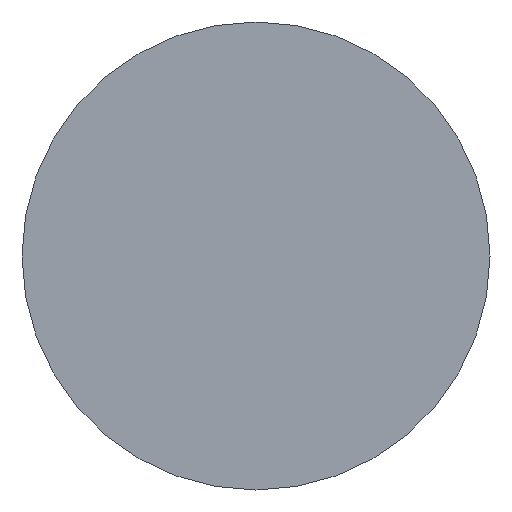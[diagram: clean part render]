
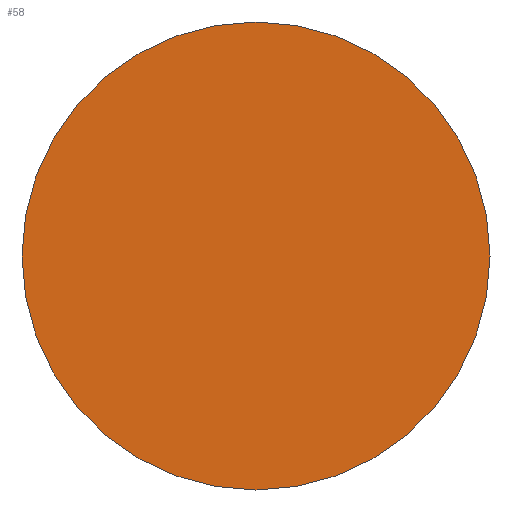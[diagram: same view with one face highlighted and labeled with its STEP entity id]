
A CAD part, left-side view. The second image highlights one B-rep face of the part: STEP entity #58.
In plain terms, the highlighted planar face has unit normal (-1, 0, 0).
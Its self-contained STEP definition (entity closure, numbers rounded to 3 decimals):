
#58 = ADVANCED_FACE('',(#59),#72,.T.);
#59 = FACE_BOUND('',#60,.F.);
#60 = EDGE_LOOP('',(#61));
#61 = ORIENTED_EDGE('',*,*,#62,.F.);
#62 = EDGE_CURVE('',#63,#63,#65,.T.);
#63 = VERTEX_POINT('',#64);
#64 = CARTESIAN_POINT('',(0.,-35.,0.));
#65 = SURFACE_CURVE('',#66,(#71,#83),.PCURVE_S1.);
#66 = CIRCLE('',#67,35.);
#67 = AXIS2_PLACEMENT_3D('',#68,#69,#70);
#68 = CARTESIAN_POINT('',(0.,0.,0.));
#69 = DIRECTION('',(-1.,-0.,0.));
#70 = DIRECTION('',(0.,-1.,0.));
#71 = PCURVE('',#72,#77);
#72 = PLANE('',#73);
#73 = AXIS2_PLACEMENT_3D('',#74,#75,#76);
#74 = CARTESIAN_POINT('',(0.,0.,0.));
#75 = DIRECTION('',(-1.,-0.,-0.));
#76 = DIRECTION('',(-0.,-1.,0.));
#77 = DEFINITIONAL_REPRESENTATION('',(#78),#82);
#78 = CIRCLE('',#79,35.);
#79 = AXIS2_PLACEMENT_2D('',#80,#81);
#80 = CARTESIAN_POINT('',(0.,0.));
#81 = DIRECTION('',(1.,-0.));
#82 = ( GEOMETRIC_REPRESENTATION_CONTEXT(2) 
PARAMETRIC_REPRESENTATION_CONTEXT() REPRESENTATION_CONTEXT('2D SPACE',''
  ) );
#83 = PCURVE('',#84,#89);
#84 = CYLINDRICAL_SURFACE('',#85,35.);
#85 = AXIS2_PLACEMENT_3D('',#86,#87,#88);
#86 = CARTESIAN_POINT('',(0.,0.,0.));
#87 = DIRECTION('',(1.,0.,0.));
#88 = DIRECTION('',(0.,-1.,0.));
#89 = DEFINITIONAL_REPRESENTATION('',(#90),#94);
#90 = LINE('',#91,#92);
#91 = CARTESIAN_POINT('',(-0.,0.));
#92 = VECTOR('',#93,1.);
#93 = DIRECTION('',(-1.,0.));
#94 = ( GEOMETRIC_REPRESENTATION_CONTEXT(2) 
PARAMETRIC_REPRESENTATION_CONTEXT() REPRESENTATION_CONTEXT('2D SPACE',''
  ) );
